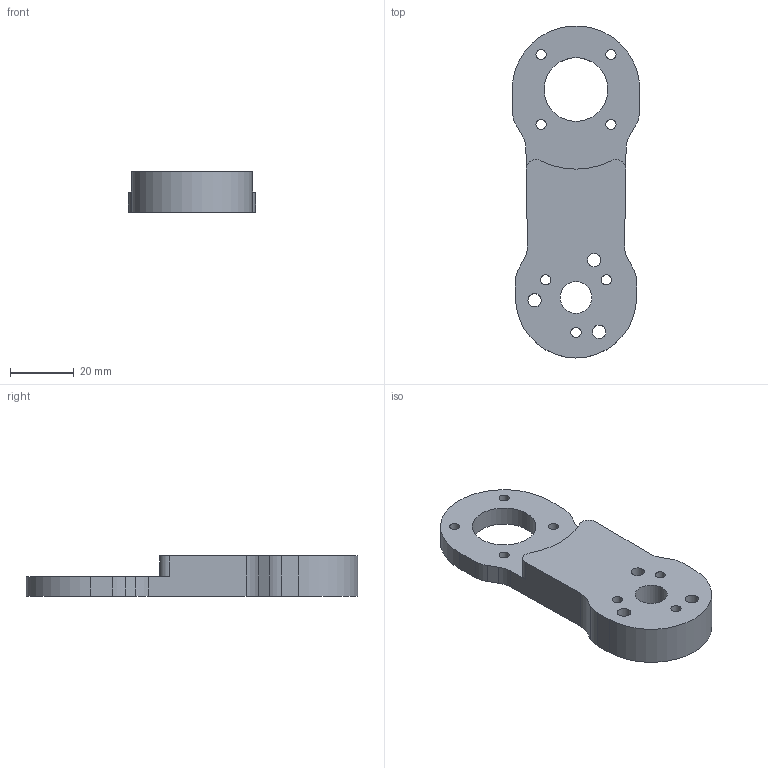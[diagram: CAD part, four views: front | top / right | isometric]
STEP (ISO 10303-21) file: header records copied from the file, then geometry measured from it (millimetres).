
FILE_DESCRIPTION(/* description */ ('CAx-IF Rec.Pracs.---Representation and Presentation of Product Manufacturing Information (PMI)---4.0---2014-10-13','CAx-IF Rec.Pracs.---3D Tessellated Geometry---0.4---2014-09-14','2;1'),/* implementation_level */ '2;1');
FILE_NAME(/* name */ 'qc1_t3_knee_rope_tool',/* time_stamp */ '2026-07-24T03:35:40+03:00',/* author */ (''),/* organization */ (''),/* preprocessor_version */ 'ST-DEVELOPER v19.4',/* originating_system */ 'SIEMENS PLM Software NX2306.1700',/* authorisation */ $);
FILE_SCHEMA (('AP242_MANAGED_MODEL_BASED_3D_ENGINEERING_MIM_LF { 1 0 10303 442 3 1 4 }'));
Length unit declared in the file: millimetre
Products named in the file (1): qc1_t3_knee_rope_tool
Bounding box: 40 x 104.18 x 12.7 mm (x, y, z)
Volume: 29418.2 mm3; surface area: 10578.4 mm2
Topology: 1 solids, 1 shells, 66 faces, 192 edges, 132 vertices
Faces by surface type: plane 41, cylinder 25
Full cylindrical faces by diameter (mm): 3.2 x7, 4.2 x3, 10 x1, 20 x1
Entity records: 2104 total; most frequent: CARTESIAN_POINT 355, DIRECTION 352, ORIENTED_EDGE 336, EDGE_CURVE 168, VERTEX_POINT 120, LINE 118, VECTOR 118, AXIS2_PLACEMENT_3D 117
